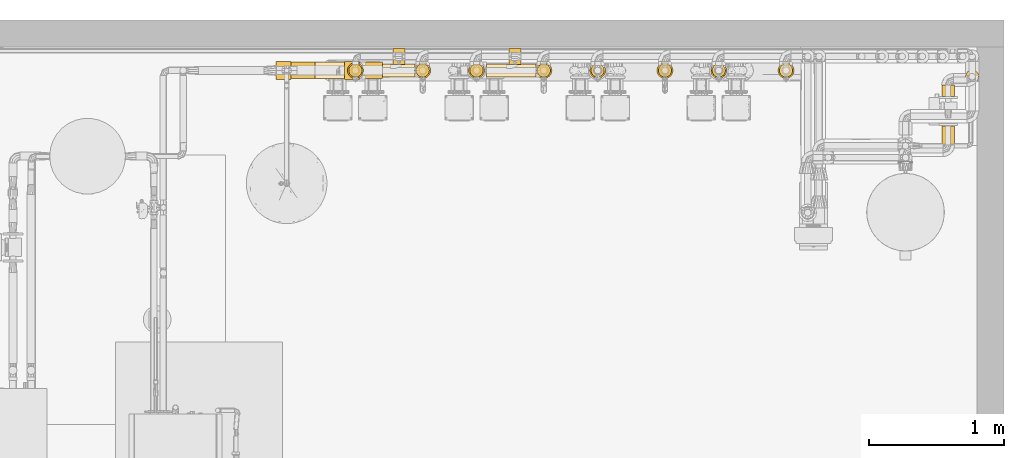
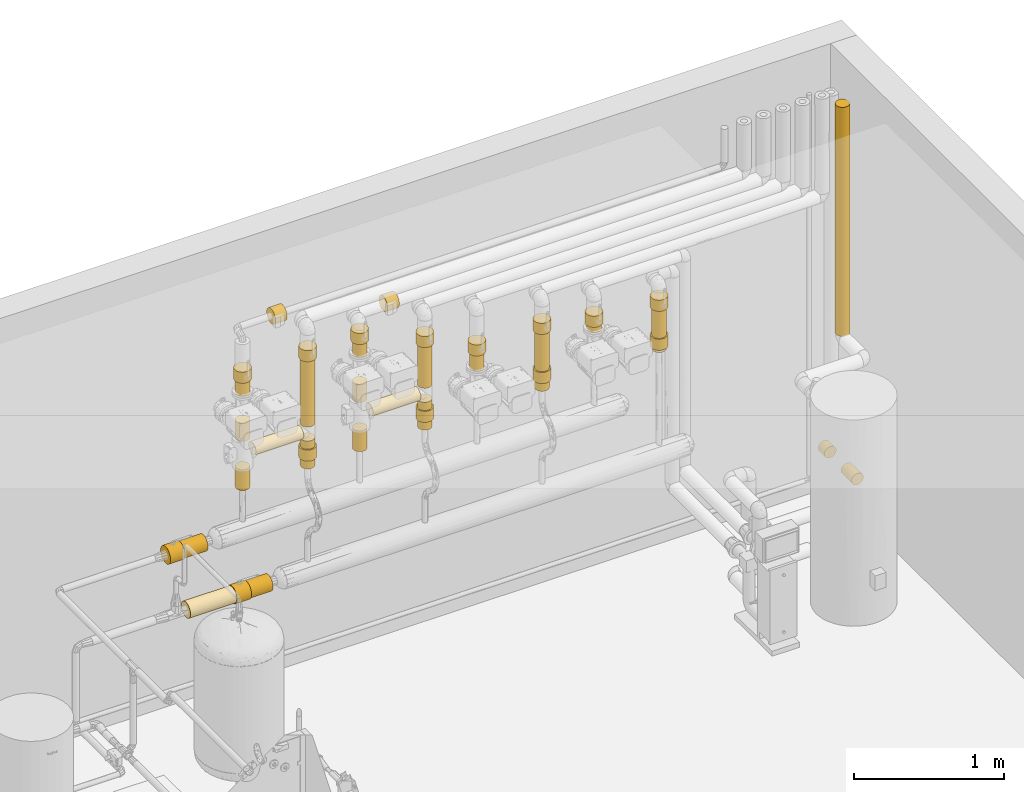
# One storey, part 3 of 94: 42 coverings.
"""IFC2X3 building model written with IfcOpenShell, lengths in millimetres."""

from ifc_helpers import new_model, entity, si_unit, converted_unit, derived_unit, direction, frame, frame_2d, origin, origin_2d_with_axis, place, context, subcontext, project, spatial, circle, extrude, material, element, save


model = new_model("IFC2X3")

# Units and contexts
model_context = context("Model", 3, precision=0.01, world=origin(), true_north=direction((6.123031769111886e-17, 1.0)))
body_context = subcontext(model_context, "Body", "Model", "MODEL_VIEW")
ifc_project = project(units=[si_unit("LENGTHUNIT", "METRE", prefix="MILLI"), si_unit("AREAUNIT", "SQUARE_METRE"), si_unit("VOLUMEUNIT", "CUBIC_METRE"), converted_unit("PLANEANGLEUNIT", "DEGREE", entity("IfcRatioMeasure", 0.017453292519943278), si_unit("PLANEANGLEUNIT", "RADIAN"), dimensions=[0, 0, 0, 0, 0, 0, 0]), si_unit("MASSUNIT", "GRAM", prefix="KILO"), derived_unit("MASSDENSITYUNIT", [(si_unit("MASSUNIT", "GRAM", prefix="KILO"), 1), (si_unit("LENGTHUNIT", "METRE"), -3)]), derived_unit("IONCONCENTRATIONUNIT", [(si_unit("MASSUNIT", "GRAM", prefix="KILO"), 1), (si_unit("LENGTHUNIT", "METRE"), -3)]), derived_unit("MOMENTOFINERTIAUNIT", [(si_unit("LENGTHUNIT", "METRE"), 4)]), si_unit("TIMEUNIT", "SECOND"), si_unit("FREQUENCYUNIT", "HERTZ"), si_unit("THERMODYNAMICTEMPERATUREUNIT", "DEGREE_CELSIUS"), derived_unit("THERMALTRANSMITTANCEUNIT", [(si_unit("MASSUNIT", "GRAM", prefix="KILO"), 1), (si_unit("THERMODYNAMICTEMPERATUREUNIT", "KELVIN"), -1), (si_unit("TIMEUNIT", "SECOND"), -3)]), derived_unit("THERMALCONDUCTANCEUNIT", [(si_unit("MASSUNIT", "GRAM", prefix="KILO"), 1), (si_unit("THERMODYNAMICTEMPERATUREUNIT", "KELVIN"), -1), (si_unit("TIMEUNIT", "SECOND"), -3), (si_unit("LENGTHUNIT", "METRE"), 1)]), derived_unit("VOLUMETRICFLOWRATEUNIT", [(si_unit("LENGTHUNIT", "METRE"), 3), (si_unit("TIMEUNIT", "SECOND"), -1)]), derived_unit("MASSFLOWRATEUNIT", [(si_unit("MASSUNIT", "GRAM", prefix="KILO"), 1), (si_unit("TIMEUNIT", "SECOND"), -1)]), derived_unit("ROTATIONALFREQUENCYUNIT", [(si_unit("TIMEUNIT", "SECOND"), -1)]), si_unit("ELECTRICCURRENTUNIT", "AMPERE"), si_unit("ELECTRICVOLTAGEUNIT", "VOLT"), si_unit("POWERUNIT", "WATT"), si_unit("FORCEUNIT", "NEWTON", prefix="KILO"), si_unit("ILLUMINANCEUNIT", "LUX"), si_unit("LUMINOUSFLUXUNIT", "LUMEN"), si_unit("LUMINOUSINTENSITYUNIT", "CANDELA"), derived_unit("USERDEFINED", [(si_unit("MASSUNIT", "GRAM", prefix="KILO"), -1), (si_unit("LENGTHUNIT", "METRE"), -2), (si_unit("TIMEUNIT", "SECOND"), 3), (si_unit("LUMINOUSFLUXUNIT", "LUMEN"), 1)]), derived_unit("USERDEFINED", [(si_unit("MASSUNIT", "GRAM", prefix="KILO"), 1), (si_unit("TIMEUNIT", "SECOND"), -3), (si_unit("LENGTHUNIT", "METRE"), 3), (si_unit("ELECTRICCURRENTUNIT", "AMPERE"), -2)]), derived_unit("SOUNDPOWERUNIT", [(si_unit("MASSUNIT", "GRAM", prefix="KILO"), 1), (si_unit("TIMEUNIT", "SECOND"), -3), (si_unit("LENGTHUNIT", "METRE"), 2)]), derived_unit("SOUNDPRESSUREUNIT", [(si_unit("MASSUNIT", "GRAM", prefix="KILO"), 1), (si_unit("LENGTHUNIT", "METRE"), -1), (si_unit("TIMEUNIT", "SECOND"), -2)]), derived_unit("LINEARVELOCITYUNIT", [(si_unit("LENGTHUNIT", "METRE"), 1), (si_unit("TIMEUNIT", "SECOND"), -1)]), si_unit("PRESSUREUNIT", "PASCAL"), derived_unit("USERDEFINED", [(si_unit("MASSUNIT", "GRAM", prefix="KILO"), 1), (si_unit("LENGTHUNIT", "METRE"), -2), (si_unit("TIMEUNIT", "SECOND"), -2)]), derived_unit("LINEARFORCEUNIT", [(si_unit("MASSUNIT", "GRAM", prefix="KILO"), 1), (si_unit("TIMEUNIT", "SECOND"), -2)]), derived_unit("PLANARFORCEUNIT", [(si_unit("MASSUNIT", "GRAM", prefix="KILO"), 1), (si_unit("LENGTHUNIT", "METRE"), -1), (si_unit("TIMEUNIT", "SECOND"), -2)]), derived_unit("SPECIFICHEATCAPACITYUNIT", [(si_unit("THERMODYNAMICTEMPERATUREUNIT", "KELVIN"), -1), (si_unit("LENGTHUNIT", "METRE"), 2), (si_unit("TIMEUNIT", "SECOND"), -2)]), derived_unit("HEATINGVALUEUNIT", [(si_unit("LENGTHUNIT", "METRE"), 2), (si_unit("TIMEUNIT", "SECOND"), -2)]), derived_unit("VAPORPERMEABILITYUNIT", [(si_unit("LENGTHUNIT", "METRE"), -1), (si_unit("TIMEUNIT", "SECOND"), 1)]), derived_unit("DYNAMICVISCOSITYUNIT", [(si_unit("MASSUNIT", "GRAM", prefix="KILO"), 1), (si_unit("TIMEUNIT", "SECOND"), -1), (si_unit("LENGTHUNIT", "METRE"), -1)]), derived_unit("THERMALEXPANSIONCOEFFICIENTUNIT", [(si_unit("THERMODYNAMICTEMPERATUREUNIT", "KELVIN"), -1)]), derived_unit("MODULUSOFELASTICITYUNIT", [(si_unit("MASSUNIT", "GRAM", prefix="KILO"), 1), (si_unit("LENGTHUNIT", "METRE"), -1), (si_unit("TIMEUNIT", "SECOND"), -2)]), derived_unit("ISOTHERMALMOISTURECAPACITYUNIT", [(si_unit("LENGTHUNIT", "METRE"), 3), (si_unit("MASSUNIT", "GRAM", prefix="KILO"), -1)]), derived_unit("MOISTUREDIFFUSIVITYUNIT", [(si_unit("TIMEUNIT", "SECOND"), -1), (si_unit("LENGTHUNIT", "METRE"), 2)])], contexts=[model_context])

# Site, building, storey
site_placement = place(None, origin())
site = spatial("IfcSite", under=ifc_project, at=site_placement, Name="Default", CompositionType="ELEMENT")
building_placement = place(site_placement, origin())
building = spatial("IfcBuilding", under=site, at=building_placement, CompositionType="ELEMENT")
storey_placement = place(building_placement, origin())
storey = spatial("IfcBuildingStorey", under=building, at=storey_placement, Name="Niveau 0", CompositionType="ELEMENT", Elevation=0.0)

# Coverings
ifc_material = material(Name="Isolation - Laine minérale")
covering_1_placement = place(storey_placement, origin())
element("IfcCovering", 1, at=covering_1_placement, inside=storey, material=ifc_material, Name="Isolation des canalisations:Laine minérale", ObjectType="Isolation des canalisations:Laine minérale", PredefinedType="INSULATION", context=body_context, shape_type="SweptSolid", body=[
    extrude(circle(Radius=66.99999999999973, at=origin_2d_with_axis()), frame((-10963.113218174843, 9922.470546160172, 1377.6034575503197), z_axis=(1.0, 0.0, 0.0), x_axis=(0.0, 1.0, 0.0)), (0.0, 0.0, 1.0), 111.50000000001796),
])
covering_2_placement = place(storey_placement, origin())
element("IfcCovering", 2, at=covering_2_placement, inside=storey, material=ifc_material, Name="Isolation des canalisations:Laine minérale", ObjectType="Isolation des canalisations:Laine minérale", PredefinedType="INSULATION", context=body_context, shape_type="SweptSolid", body=[
    extrude(circle(Radius=61.51250000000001, at=origin_2d_with_axis()), frame((-10851.613218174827, 9922.470546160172, 1377.6034575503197), z_axis=(1.0, 0.0, 0.0), x_axis=(0.0, -1.0, 0.0)), (0.0, 0.0, 1.0), 179.4673526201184),
])
covering_3_placement = place(storey_placement, origin())
element("IfcCovering", 3, at=covering_3_placement, inside=storey, material=ifc_material, Name="Isolation des canalisations:Laine minérale", ObjectType="Isolation des canalisations:Laine minérale", PredefinedType="INSULATION", context=body_context, shape_type="SweptSolid", body=[
    extrude(circle(Radius=61.51250000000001, at=origin_2d_with_axis()), frame((-10807.233218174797, 9922.470546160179, 877.6034575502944), z_axis=(1.0, 0.0, 0.0), x_axis=(0.0, -1.0, 0.0)), (0.0, 0.0, 1.0), 355.2073526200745),
])
covering_4_placement = place(storey_placement, origin())
element("IfcCovering", 4, at=covering_4_placement, inside=storey, material=ifc_material, Name="Isolation des canalisations:Laine minérale", ObjectType="Isolation des canalisations:Laine minérale", PredefinedType="INSULATION", context=body_context, shape_type="SweptSolid", body=[
    extrude(circle(Radius=66.99999999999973, at=frame_2d((0.0, -1.353583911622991e-13), x_axis=(1.0, 0.0))), frame((-10452.025865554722, 9922.470546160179, 877.6034575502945), z_axis=(1.0, 0.0, 0.0), x_axis=(0.0, 1.0, 0.0)), (0.0, 0.0, 1.0), 111.50000000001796),
])
covering_5_placement = place(storey_placement, origin())
element("IfcCovering", 5, at=covering_5_placement, inside=storey, material=ifc_material, Name="Isolation des canalisations:Laine minérale", ObjectType="Isolation des canalisations:Laine minérale", PredefinedType="INSULATION", context=body_context, shape_type="SweptSolid", body=[
    extrude(circle(Radius=61.51250000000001, at=origin_2d_with_axis()), frame((-10340.525865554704, 9922.470546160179, 877.6034575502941), z_axis=(1.0, 0.0, 0.0), x_axis=(0.0, -1.0, 0.0)), (0.0, 0.0, 1.0), 168.3799999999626),
])
covering_6_placement = place(storey_placement, origin())
element("IfcCovering", 6, at=covering_6_placement, inside=storey, material=ifc_material, Name="Isolation des canalisations:Laine minérale", ObjectType="Isolation des canalisations:Laine minérale", PredefinedType="INSULATION", context=body_context, shape_type="SweptSolid", body=[
    extrude(circle(Radius=49.13, at=frame_2d((-2.1657342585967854e-12, 2.1657342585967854e-12), x_axis=(1.0, 0.0))), frame((-9872.145865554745, 9922.470546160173, 1727.6034575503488)), (0.0, 0.0, 1.0), 70.12670509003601),
])
covering_7_placement = place(storey_placement, origin())
element("IfcCovering", 7, at=covering_7_placement, inside=storey, material=ifc_material, Name="Isolation des canalisations:Laine minérale", ObjectType="Isolation des canalisations:Laine minérale", PredefinedType="INSULATION", context=body_context, shape_type="SweptSolid", body=[
    extrude(circle(Radius=49.13, at=frame_2d((2.1657342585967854e-12, -3.2486013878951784e-12), x_axis=(1.0, 0.0))), frame((-10298.145865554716, 9922.47054616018, 2010.5899653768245), z_axis=(1.0, 0.0, 0.0), x_axis=(0.0, -1.0, 0.0)), (0.0, 0.0, 1.0), 368.99999999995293),
])
covering_8_placement = place(storey_placement, origin())
element("IfcCovering", 8, at=covering_8_placement, inside=storey, material=ifc_material, Name="Isolation des canalisations:Laine minérale", ObjectType="Isolation des canalisations:Laine minérale", PredefinedType="INSULATION", context=body_context, shape_type="SweptSolid", body=[
    extrude(circle(Radius=49.13, at=frame_2d((2.1657342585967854e-12, -4.331468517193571e-12), x_axis=(1.0, 0.0))), frame((-9872.145865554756, 9922.470546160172, 2067.589965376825)), (0.0, 0.0, 1.0), 537.4100346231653),
])
covering_9_placement = place(storey_placement, origin())
element("IfcCovering", 9, at=covering_9_placement, inside=storey, material=ifc_material, Name="Isolation des canalisations:Laine minérale", ObjectType="Isolation des canalisations:Laine minérale", PredefinedType="INSULATION", context=body_context, shape_type="SweptSolid", body=[
    extrude(circle(Radius=49.13, at=origin_2d_with_axis()), frame((-10372.145865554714, 9922.47054616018, 2126.589965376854)), (0.0, 0.0, 1.0), 145.46275572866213),
])
covering_10_placement = place(storey_placement, origin())
element("IfcCovering", 10, at=covering_10_placement, inside=storey, material=ifc_material, Name="Isolation des canalisations:Laine minérale", ObjectType="Isolation des canalisations:Laine minérale", PredefinedType="INSULATION", context=body_context, shape_type="SweptSolid", body=[
    extrude(circle(Radius=49.13, at=origin_2d_with_axis()), frame((-10372.145865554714, 9922.47054616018, 1727.60345755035)), (0.0, 0.0, 1.0), 166.9865078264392),
])
covering_11_placement = place(storey_placement, origin())
element("IfcCovering", 11, at=covering_11_placement, inside=storey, material=ifc_material, Name="Isolation des canalisations:Laine minérale", ObjectType="Isolation des canalisations:Laine minérale", PredefinedType="INSULATION", context=body_context, shape_type="SweptSolid", body=[
    extrude(circle(Radius=59.5, at=origin_2d_with_axis()), frame((-9872.145865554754, 9922.470546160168, 2605.0), z_axis=(0.0, 0.0, 1.0), x_axis=(-1.0, 0.0, 0.0)), (0.0, 0.0, 1.0), 90.00000000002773),
])
covering_12_placement = place(storey_placement, origin())
element("IfcCovering", 12, at=covering_12_placement, inside=storey, material=ifc_material, Name="Isolation des canalisations:Laine minérale", ObjectType="Isolation des canalisations:Laine minérale", PredefinedType="INSULATION", context=body_context, shape_type="SweptSolid", body=[
    extrude(circle(Radius=59.5, at=origin_2d_with_axis()), frame((-9872.145865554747, 9922.470546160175, 1797.7301626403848), z_axis=(0.0, 0.0, 1.0), x_axis=(-1.0, 0.0, 0.0)), (0.0, 0.0, 1.0), 90.00000000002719),
])
covering_13_placement = place(storey_placement, origin())
element("IfcCovering", 13, at=covering_13_placement, inside=storey, material=ifc_material, Name="Isolation des canalisations:Laine minérale", ObjectType="Isolation des canalisations:Laine minérale", PredefinedType="INSULATION", context=body_context, shape_type="SweptSolid", body=[
    extrude(circle(Radius=49.13, at=frame_2d((-8.662937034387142e-12, 2.1657342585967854e-12), x_axis=(1.0, 0.0))), frame((-9872.145865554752, 9922.470546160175, 1887.730162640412)), (0.0, 0.0, 1.0), 65.8598027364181),
])
covering_14_placement = place(storey_placement, origin())
element("IfcCovering", 14, at=covering_14_placement, inside=storey, material=ifc_material, Name="Isolation des canalisations:Laine minérale", ObjectType="Isolation des canalisations:Laine minérale", PredefinedType="INSULATION", context=body_context, shape_type="SweptSolid", body=[
    extrude(circle(Radius=59.5, at=origin_2d_with_axis()), frame((-10372.14586555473, 9922.470546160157, 2605.0), z_axis=(0.0, 0.0, 1.0), x_axis=(-1.0, 0.0, 0.0)), (0.0, 0.0, 1.0), 90.00000000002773),
])
covering_15_placement = place(storey_placement, origin())
element("IfcCovering", 15, at=covering_15_placement, inside=storey, material=ifc_material, Name="Isolation des canalisations:Laine minérale", ObjectType="Isolation des canalisations:Laine minérale", PredefinedType="INSULATION", context=body_context, shape_type="SweptSolid", body=[
    extrude(circle(Radius=49.13, at=frame_2d((0.0, -2.1657342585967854e-12), x_axis=(1.0, 0.0))), frame((-10372.14586555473, 9922.47054616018, 2492.052721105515), z_axis=(0.0, 0.0, 1.0), x_axis=(-1.0, 0.0, 0.0)), (0.0, 0.0, 1.0), 112.94727889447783),
])
covering_16_placement = place(storey_placement, origin())
element("IfcCovering", 16, at=covering_16_placement, inside=storey, material=ifc_material, Name="Isolation des canalisations:Laine minérale", ObjectType="Isolation des canalisations:Laine minérale", PredefinedType="INSULATION", context=body_context, shape_type="SweptSolid", body=[
    extrude(circle(Radius=59.5, at=origin_2d_with_axis()), frame((-10092.492284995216, 10026.845624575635, 2950.0), z_axis=(1.0, 0.0, 0.0), x_axis=(0.0, 0.0, 1.0)), (0.0, 0.0, 1.0), 90.00000000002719),
])
covering_17_placement = place(storey_placement, origin())
element("IfcCovering", 17, at=covering_17_placement, inside=storey, material=ifc_material, Name="Isolation des canalisations:Laine minérale", ObjectType="Isolation des canalisations:Laine minérale", PredefinedType="INSULATION", context=body_context, shape_type="SweptSolid", body=[
    extrude(circle(Radius=49.13, at=frame_2d((-5.4143356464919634e-12, 2.1657342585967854e-12), x_axis=(1.0, 0.0))), frame((-8972.145865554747, 9922.470546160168, 1727.6034575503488)), (0.0, 0.0, 1.0), 70.12670509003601),
])
covering_18_placement = place(storey_placement, origin())
element("IfcCovering", 18, at=covering_18_placement, inside=storey, material=ifc_material, Name="Isolation des canalisations:Laine minérale", ObjectType="Isolation des canalisations:Laine minérale", PredefinedType="INSULATION", context=body_context, shape_type="SweptSolid", body=[
    extrude(circle(Radius=49.13, at=frame_2d((2.1657342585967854e-12, -3.2486013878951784e-12), x_axis=(1.0, 0.0))), frame((-9398.145865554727, 9922.470546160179, 2010.5899653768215), z_axis=(1.0, 0.0, 0.0), x_axis=(0.0, -1.0, 0.0)), (0.0, 0.0, 1.0), 368.99999999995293),
])
covering_19_placement = place(storey_placement, origin())
element("IfcCovering", 19, at=covering_19_placement, inside=storey, material=ifc_material, Name="Isolation des canalisations:Laine minérale", ObjectType="Isolation des canalisations:Laine minérale", PredefinedType="INSULATION", context=body_context, shape_type="SweptSolid", body=[
    extrude(circle(Radius=49.13, at=frame_2d((-6.497202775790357e-12, 4.331468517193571e-12), x_axis=(1.0, 0.0))), frame((-9472.145865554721, 9922.470546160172, 1727.60345755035)), (0.0, 0.0, 1.0), 166.9865078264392),
])
covering_20_placement = place(storey_placement, origin())
element("IfcCovering", 20, at=covering_20_placement, inside=storey, material=ifc_material, Name="Isolation des canalisations:Laine minérale", ObjectType="Isolation des canalisations:Laine minérale", PredefinedType="INSULATION", context=body_context, shape_type="SweptSolid", body=[
    extrude(circle(Radius=59.5, at=origin_2d_with_axis()), frame((-8972.14586555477, 9922.47054616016, 2405.0), z_axis=(0.0, 0.0, 1.0), x_axis=(-1.0, 0.0, 0.0)), (0.0, 0.0, 1.0), 90.00000000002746),
])
covering_21_placement = place(storey_placement, origin())
element("IfcCovering", 21, at=covering_21_placement, inside=storey, material=ifc_material, Name="Isolation des canalisations:Laine minérale", ObjectType="Isolation des canalisations:Laine minérale", PredefinedType="INSULATION", context=body_context, shape_type="SweptSolid", body=[
    extrude(circle(Radius=49.13, at=frame_2d((-4.331468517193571e-12, 6.497202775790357e-12), x_axis=(1.0, 0.0))), frame((-9472.145865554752, 9922.470546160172, 2126.589965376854)), (0.0, 0.0, 1.0), 145.46275572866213),
])
covering_22_placement = place(storey_placement, origin())
element("IfcCovering", 22, at=covering_22_placement, inside=storey, material=ifc_material, Name="Isolation des canalisations:Laine minérale", ObjectType="Isolation des canalisations:Laine minérale", PredefinedType="INSULATION", context=body_context, shape_type="SweptSolid", body=[
    extrude(circle(Radius=49.13, at=frame_2d((1.5160139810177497e-11, 2.1657342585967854e-12), x_axis=(1.0, 0.0))), frame((-8972.145865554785, 9922.470546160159, 2067.589965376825)), (0.0, 0.0, 1.0), 337.41003462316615),
])
covering_23_placement = place(storey_placement, origin())
element("IfcCovering", 23, at=covering_23_placement, inside=storey, material=ifc_material, Name="Isolation des canalisations:Laine minérale", ObjectType="Isolation des canalisations:Laine minérale", PredefinedType="INSULATION", context=body_context, shape_type="SweptSolid", body=[
    extrude(circle(Radius=59.5, at=origin_2d_with_axis()), frame((-8972.145865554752, 9922.47054616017, 1797.7301626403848), z_axis=(0.0, 0.0, 1.0), x_axis=(-1.0, 0.0, 0.0)), (0.0, 0.0, 1.0), 90.00000000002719),
])
covering_24_placement = place(storey_placement, origin())
element("IfcCovering", 24, at=covering_24_placement, inside=storey, material=ifc_material, Name="Isolation des canalisations:Laine minérale", ObjectType="Isolation des canalisations:Laine minérale", PredefinedType="INSULATION", context=body_context, shape_type="SweptSolid", body=[
    extrude(circle(Radius=49.13, at=frame_2d((-1.0828671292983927e-11, 2.1657342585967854e-12), x_axis=(1.0, 0.0))), frame((-8972.145865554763, 9922.470546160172, 1887.730162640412)), (0.0, 0.0, 1.0), 65.8598027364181),
])
covering_25_placement = place(storey_placement, origin())
element("IfcCovering", 25, at=covering_25_placement, inside=storey, material=ifc_material, Name="Isolation des canalisations:Laine minérale", ObjectType="Isolation des canalisations:Laine minérale", PredefinedType="INSULATION", context=body_context, shape_type="SweptSolid", body=[
    extrude(circle(Radius=59.5, at=origin_2d_with_axis()), frame((-9472.145865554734, 9922.470546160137, 2605.0), z_axis=(0.0, 0.0, 1.0), x_axis=(-1.0, 0.0, 0.0)), (0.0, 0.0, 1.0), 90.00000000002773),
])
covering_26_placement = place(storey_placement, origin())
element("IfcCovering", 26, at=covering_26_placement, inside=storey, material=ifc_material, Name="Isolation des canalisations:Laine minérale", ObjectType="Isolation des canalisations:Laine minérale", PredefinedType="INSULATION", context=body_context, shape_type="SweptSolid", body=[
    extrude(circle(Radius=49.13, at=frame_2d((0.0, -2.1657342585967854e-12), x_axis=(1.0, 0.0))), frame((-9472.145865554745, 9922.47054616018, 2492.052721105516)), (0.0, 0.0, 1.0), 112.94727889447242),
])
covering_27_placement = place(storey_placement, origin())
element("IfcCovering", 27, at=covering_27_placement, inside=storey, material=ifc_material, Name="Isolation des canalisations:Laine minérale", ObjectType="Isolation des canalisations:Laine minérale", PredefinedType="INSULATION", context=body_context, shape_type="SweptSolid", body=[
    extrude(circle(Radius=59.5, at=origin_2d_with_axis()), frame((-9230.887025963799, 10026.845624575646, 2750.0), z_axis=(1.0, 0.0, 0.0), x_axis=(0.0, 0.0, 1.0)), (0.0, 0.0, 1.0), 90.00000000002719),
])
covering_28_placement = place(storey_placement, origin())
element("IfcCovering", 28, at=covering_28_placement, inside=storey, material=ifc_material, Name="Isolation des canalisations:Laine minérale", ObjectType="Isolation des canalisations:Laine minérale", PredefinedType="INSULATION", context=body_context, shape_type="SweptSolid", body=[
    extrude(circle(Radius=49.13, at=frame_2d((-4.331468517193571e-12, -6.497202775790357e-12), x_axis=(1.0, 0.0))), frame((-8572.145865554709, 9922.470546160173, 2062.7301626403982)), (0.0, 0.0, 1.0), 133.7350584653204),
])
covering_29_placement = place(storey_placement, origin())
element("IfcCovering", 29, at=covering_29_placement, inside=storey, material=ifc_material, Name="Isolation des canalisations:Laine minérale", ObjectType="Isolation des canalisations:Laine minérale", PredefinedType="INSULATION", context=body_context, shape_type="SweptSolid", body=[
    extrude(circle(Radius=59.5, at=origin_2d_with_axis()), frame((-8572.145865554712, 9922.470546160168, 2196.4652211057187), z_axis=(0.0, 0.0, 1.0), x_axis=(-1.0, 0.0, 0.0)), (0.0, 0.0, 1.0), 90.00000000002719),
])
covering_30_placement = place(storey_placement, origin())
element("IfcCovering", 30, at=covering_30_placement, inside=storey, material=ifc_material, Name="Isolation des canalisations:Laine minérale", ObjectType="Isolation des canalisations:Laine minérale", PredefinedType="INSULATION", context=body_context, shape_type="SweptSolid", body=[
    extrude(circle(Radius=49.13, at=frame_2d((-1.0828671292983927e-12, 0.0), x_axis=(1.0, 0.0))), frame((-8072.145865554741, 9922.470546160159, 1727.6034575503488)), (0.0, 0.0, 1.0), 70.12670509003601),
])
covering_31_placement = place(storey_placement, origin())
element("IfcCovering", 31, at=covering_31_placement, inside=storey, material=ifc_material, Name="Isolation des canalisations:Laine minérale", ObjectType="Isolation des canalisations:Laine minérale", PredefinedType="INSULATION", context=body_context, shape_type="SweptSolid", body=[
    extrude(circle(Radius=59.5, at=origin_2d_with_axis()), frame((-8072.145865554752, 9922.470546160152, 2196.4652211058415), z_axis=(0.0, 0.0, 1.0), x_axis=(-1.0, 0.0, 0.0)), (0.0, 0.0, 1.0), 90.00000000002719),
])
covering_32_placement = place(storey_placement, origin())
element("IfcCovering", 32, at=covering_32_placement, inside=storey, material=ifc_material, Name="Isolation des canalisations:Laine minérale", ObjectType="Isolation des canalisations:Laine minérale", PredefinedType="INSULATION", context=body_context, shape_type="SweptSolid", body=[
    extrude(circle(Radius=59.5, at=origin_2d_with_axis()), frame((-8072.145865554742, 9922.470546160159, 1797.7301626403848), z_axis=(0.0, 0.0, 1.0), x_axis=(-1.0, 0.0, 0.0)), (0.0, 0.0, 1.0), 90.00000000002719),
])
covering_33_placement = place(storey_placement, origin())
element("IfcCovering", 33, at=covering_33_placement, inside=storey, material=ifc_material, Name="Isolation des canalisations:Laine minérale", ObjectType="Isolation des canalisations:Laine minérale", PredefinedType="INSULATION", context=body_context, shape_type="SweptSolid", body=[
    extrude(circle(Radius=49.13, at=frame_2d((-5.4143356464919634e-12, -2.1657342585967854e-12), x_axis=(1.0, 0.0))), frame((-8072.145865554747, 9922.470546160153, 1887.730162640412)), (0.0, 0.0, 1.0), 308.73505846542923),
])
covering_34_placement = place(storey_placement, origin())
element("IfcCovering", 34, at=covering_34_placement, inside=storey, material=ifc_material, Name="Isolation des canalisations:Laine minérale", ObjectType="Isolation des canalisations:Laine minérale", PredefinedType="INSULATION", context=body_context, shape_type="SweptSolid", body=[
    extrude(circle(Radius=49.13, at=frame_2d((-6.497202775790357e-12, -1.0828671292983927e-11), x_axis=(1.0, 0.0))), frame((-7672.14586555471, 9922.470546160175, 2062.7301626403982)), (0.0, 0.0, 1.0), 51.48731568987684),
])
covering_35_placement = place(storey_placement, origin())
element("IfcCovering", 35, at=covering_35_placement, inside=storey, material=ifc_material, Name="Isolation des canalisations:Laine minérale", ObjectType="Isolation des canalisations:Laine minérale", PredefinedType="INSULATION", context=body_context, shape_type="SweptSolid", body=[
    extrude(circle(Radius=59.5, at=origin_2d_with_axis()), frame((-7672.145865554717, 9922.470546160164, 2114.217478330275), z_axis=(0.0, 0.0, 1.0), x_axis=(-1.0, 0.0, 0.0)), (0.0, 0.0, 1.0), 90.00000000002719),
])
covering_36_placement = place(storey_placement, origin())
element("IfcCovering", 36, at=covering_36_placement, inside=storey, material=ifc_material, Name="Isolation des canalisations:Laine minérale", ObjectType="Isolation des canalisations:Laine minérale", PredefinedType="INSULATION", context=body_context, shape_type="SweptSolid", body=[
    extrude(circle(Radius=49.13, at=frame_2d((-1.0828671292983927e-12, 0.0), x_axis=(1.0, 0.0))), frame((-7172.145865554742, 9922.470546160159, 1727.60345755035)), (0.0, 0.0, 1.0), 25.126705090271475),
])
covering_37_placement = place(storey_placement, origin())
element("IfcCovering", 37, at=covering_37_placement, inside=storey, material=ifc_material, Name="Isolation des canalisations:Laine minérale", ObjectType="Isolation des canalisations:Laine minérale", PredefinedType="INSULATION", context=body_context, shape_type="SweptSolid", body=[
    extrude(circle(Radius=59.5, at=origin_2d_with_axis()), frame((-7172.145865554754, 9922.470546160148, 2069.2174783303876), z_axis=(0.0, 0.0, 1.0), x_axis=(-1.0, 0.0, 0.0)), (0.0, 0.0, 1.0), 90.00000000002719),
])
covering_38_placement = place(storey_placement, origin())
element("IfcCovering", 38, at=covering_38_placement, inside=storey, material=ifc_material, Name="Isolation des canalisations:Laine minérale", ObjectType="Isolation des canalisations:Laine minérale", PredefinedType="INSULATION", context=body_context, shape_type="SweptSolid", body=[
    extrude(circle(Radius=59.5, at=origin_2d_with_axis()), frame((-7172.145865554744, 9922.470546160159, 1752.7301626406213), z_axis=(0.0, 0.0, 1.0), x_axis=(-1.0, 0.0, 0.0)), (0.0, 0.0, 1.0), 90.00000000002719),
])
covering_39_placement = place(storey_placement, origin())
element("IfcCovering", 39, at=covering_39_placement, inside=storey, material=ifc_material, Name="Isolation des canalisations:Laine minérale", ObjectType="Isolation des canalisations:Laine minérale", PredefinedType="INSULATION", context=body_context, shape_type="SweptSolid", body=[
    extrude(circle(Radius=49.13, at=frame_2d((-6.497202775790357e-12, -6.497202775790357e-12), x_axis=(1.0, 0.0))), frame((-7172.145865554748, 9922.470546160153, 1842.7301626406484)), (0.0, 0.0, 1.0), 226.48731568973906),
])
covering_40_placement = place(storey_placement, origin())
element("IfcCovering", 40, at=covering_40_placement, inside=storey, material=ifc_material, Name="Isolation des canalisations:Laine minérale", ObjectType="Isolation des canalisations:Laine minérale", PredefinedType="INSULATION", context=body_context, shape_type="SweptSolid", body=[
    extrude(circle(Radius=49.13, at=origin_2d_with_axis()), frame((-5788.904702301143, 9876.845624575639, 1401.8999999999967), z_axis=(0.0, 0.0, 1.0), x_axis=(0.0, 1.0, 0.0)), (0.0, 0.0, 1.0), 1860.1000000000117),
])
covering_41_placement = place(storey_placement, origin())
element("IfcCovering", 41, at=covering_41_placement, inside=storey, material=ifc_material, Name="Isolation des canalisations:Laine minérale", ObjectType="Isolation des canalisations:Laine minérale", PredefinedType="INSULATION", context=body_context, shape_type="SweptSolid", body=[
    extrude(circle(Radius=46.082, at=origin_2d_with_axis()), frame((-5967.406992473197, 9510.257927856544, 578.8885936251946), z_axis=(0.0, -1.0, 6.11527323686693e-05), x_axis=(1.0, 0.0, 0.0)), (0.0, 0.0, 1.0), 140.60389468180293),
])
covering_42_placement = place(storey_placement, origin())
element("IfcCovering", 42, at=covering_42_placement, inside=storey, material=ifc_material, Name="Isolation des canalisations:Laine minérale", ObjectType="Isolation des canalisations:Laine minérale", PredefinedType="INSULATION", context=body_context, shape_type="SweptSolid", body=[
    extrude(circle(Radius=46.082, at=frame_2d((0.0, -6.7679195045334e-14), x_axis=(1.0, 0.0))), frame((-5967.407444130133, 9730.25792785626, 578.8824429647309), z_axis=(0.0, 0.9999999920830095, 0.00012583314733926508), x_axis=(-1.0, 0.0, 0.0)), (0.0, 0.0, 1.0), 82.71251232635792),
])

save(model, "model.ifc")
